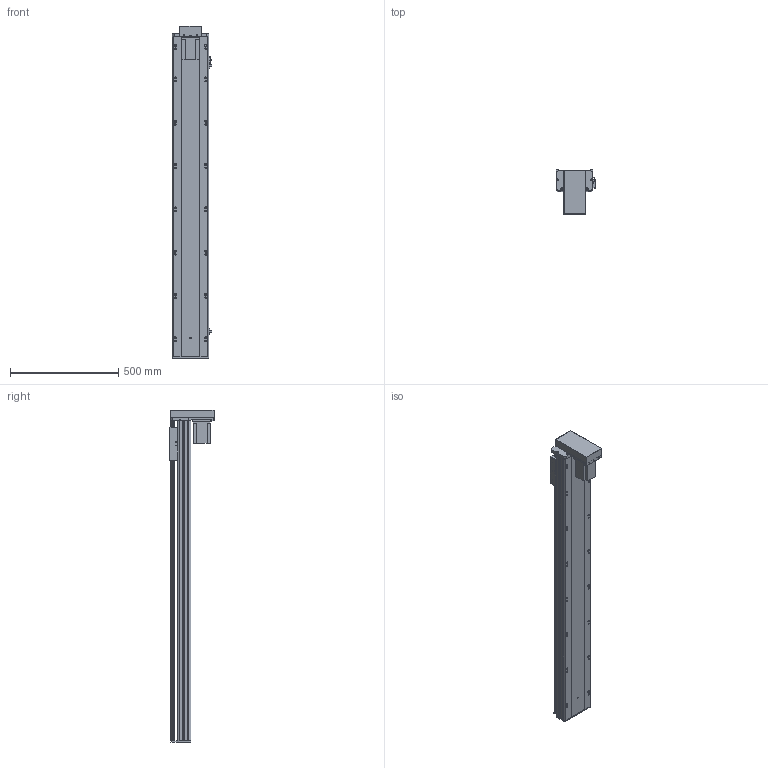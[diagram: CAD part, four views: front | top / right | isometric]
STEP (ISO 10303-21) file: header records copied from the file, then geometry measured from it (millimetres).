
FILE_DESCRIPTION (( 'STEP AP203' ), '1' );
FILE_NAME ('Y170-D10-S1250-BM-P750W.STEP', '2020-01-22T03:24:34', ( '微软用户' ), ( '微软中国' ), 'SwSTEP 2.0', 'SolidWorks 2017', '' );
FILE_SCHEMA (( 'CONFIG_CONTROL_DESIGN' ));
Length unit declared in the file: millimetre
Products named in the file (12): Y170-D10-S1250-BM-P750W; EGH20賑輸_蕼偞; Y雄赽釱-耜蚾; Y170-陔遴奻裔-BR; 170-BM耜蚾蟀諉啣; Y170-BM--P750W楊擘啣; -BM俋袗; Y170耜裔--準---; YD-Y100-135-新外置传感挡片(通用）; 170--掛极-BR; Y100-135俋离換覜ん; 侂狟750W
Assembly tree (14 placements, depth 2):
  Y170-D10-S1250-BM-P750W
    Y170耜裔--準---
    170--掛极-BR
    侂狟750W
    EGH20賑輸_蕼偞  x2
    Y雄赽釱-耜蚾
    Y170-陔遴奻裔-BR
    170-BM耜蚾蟀諉啣
    Y170-BM--P750W楊擘啣
    -BM俋袗
    YD-Y100-135-新外置传感挡片(通用）
    Y100-135俋离換覜ん  x3
Bounding box: 183.5 x 203.5 x 1533.5 mm (x, y, z)
Volume: 6987855.4 mm3; surface area: 2435490.1 mm2
Topology: 14 solids, 14 shells, 930 faces, 2652 edges, 1750 vertices
Faces by surface type: cylinder 478, plane 436, cone 16
Entity records: 29786 total; most frequent: CARTESIAN_POINT 5375, DIRECTION 4904, ORIENTED_EDGE 4800, EDGE_CURVE 2400, AXIS2_PLACEMENT_3D 1747, VERTEX_POINT 1594, LINE 1410, VECTOR 1410
